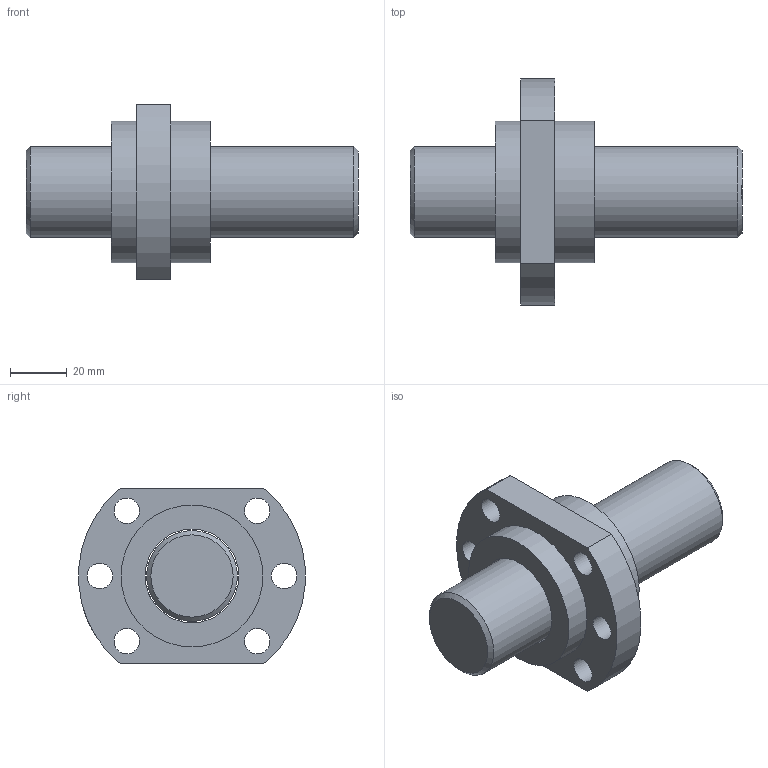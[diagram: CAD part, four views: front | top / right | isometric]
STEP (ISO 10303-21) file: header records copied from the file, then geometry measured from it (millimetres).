
FILE_DESCRIPTION (( 'STEP AP203' ), '1' );
FILE_NAME ('SFA3205-3.8.STEP', '2023-05-22T07:18:13', ( '' ), ( '' ), 'SwSTEP 2.0', 'SolidWorks 2022', '' );
FILE_SCHEMA (( 'CONFIG_CONTROL_DESIGN' ));
Length unit declared in the file: millimetre
Products named in the file (1): SFA3205-3.8
Bounding box: 117 x 79.74 x 62 mm (x, y, z)
Volume: 157170 mm3; surface area: 32034.3 mm2
Topology: 2 solids, 2 shells, 25 faces, 59 edges, 40 vertices
Faces by surface type: cylinder 14, plane 8, cone 3
Full cylindrical faces by diameter (mm): 2.5 x1, 5 x1, 9 x6, 32 x1, 33 x1, 50 x2
Entity records: 952 total; most frequent: CARTESIAN_POINT 339, DIRECTION 116, ORIENTED_EDGE 76, EDGE_LOOP 58, AXIS2_PLACEMENT_3D 54, EDGE_CURVE 38, FACE_OUTER_BOUND 37, VERTEX_POINT 34
